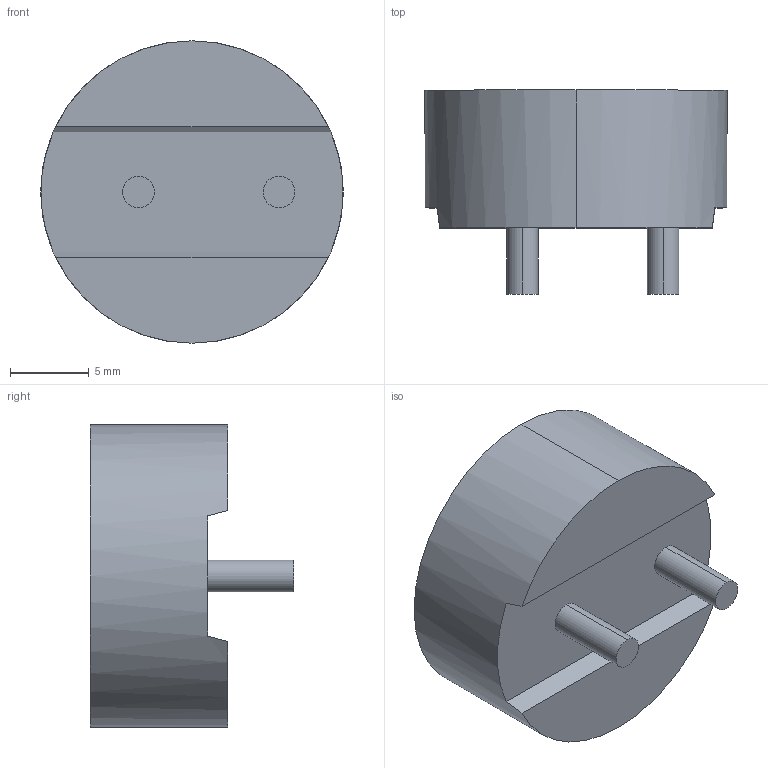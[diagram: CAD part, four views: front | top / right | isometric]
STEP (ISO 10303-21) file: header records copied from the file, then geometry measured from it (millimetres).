
FILE_DESCRIPTION (( 'STEP AP214' ), '1' );
FILE_NAME ('IHTH_IHTH0750IZ 0.47uH.step', '2014-06-30T13:34:07', ( '' ), ( '' ), 'SwSTEP 2.0', 'SolidWorks 2014', '' );
FILE_SCHEMA (( 'AUTOMOTIVE_DESIGN' ));
Length unit declared in the file: inch
Products named in the file (1): IHTH_IHTH0750IZ   0.47uH
Bounding box: 19.18 x 12.93 x 19.18 mm (x, y, z)
Volume: 2369.9 mm3; surface area: 1187 mm2
Topology: 1 solids, 1 shells, 39 faces, 90 edges, 60 vertices
Faces by surface type: plane 33, cylinder 6
Entity records: 1231 total; most frequent: CARTESIAN_POINT 202, DIRECTION 182, ORIENTED_EDGE 180, EDGE_CURVE 90, LINE 70, VECTOR 70, VERTEX_POINT 60, AXIS2_PLACEMENT_3D 56
